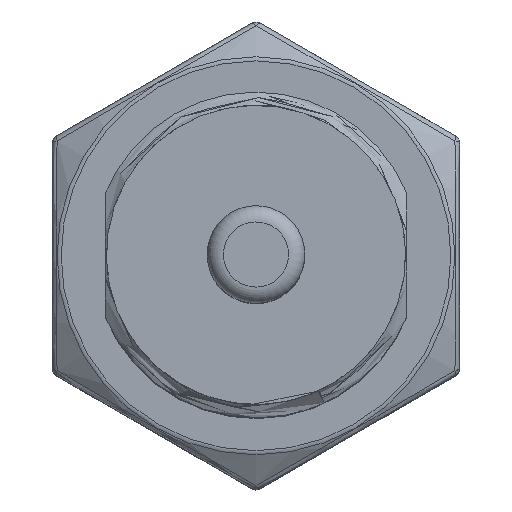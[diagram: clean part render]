
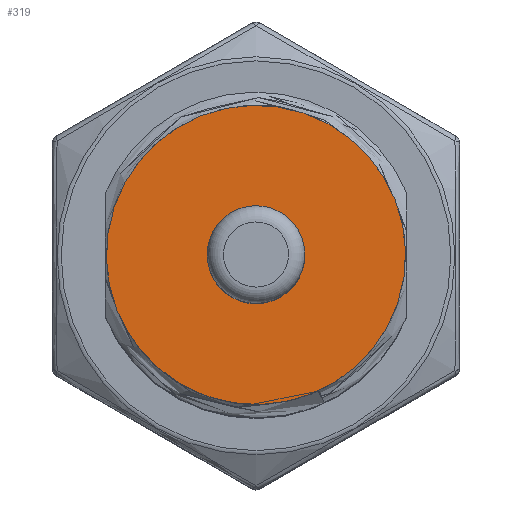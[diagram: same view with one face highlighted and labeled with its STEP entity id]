
A CAD part, top view. The second image highlights one B-rep face of the part: STEP entity #319.
In plain terms, the highlighted planar face has unit normal (0, 0, 1).
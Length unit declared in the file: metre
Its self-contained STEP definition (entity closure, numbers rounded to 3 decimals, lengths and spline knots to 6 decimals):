
#319=ADVANCED_FACE('',(#709),#710,.T.);
#709=FACE_OUTER_BOUND('',#6775,.T.);
#710=PLANE('',#6776);
#6775=EDGE_LOOP('',(#8115));
#6776=AXIS2_PLACEMENT_3D('',#8116,#8117,#8118);
#8115=ORIENTED_EDGE('',*,*,#8580,.T.);
#8116=CARTESIAN_POINT('',(0.0,0.0,0.066));
#8117=DIRECTION('',(0.0,0.0,1.0));
#8118=DIRECTION('',(1.0,0.0,0.0));
#8580=EDGE_CURVE('',#9278,#9278,#9279,.T.);
#9278=VERTEX_POINT('',#15292);
#9279=CIRCLE('',#15293,0.009188);
#15292=CARTESIAN_POINT('',(0.009188,0.0,0.066));
#15293=AXIS2_PLACEMENT_3D('',#15594,#15595,#15596);
#15594=CARTESIAN_POINT('',(0.0,0.0,0.066));
#15595=DIRECTION('',(0.0,0.0,1.0));
#15596=DIRECTION('',(1.0,0.0,0.0));
